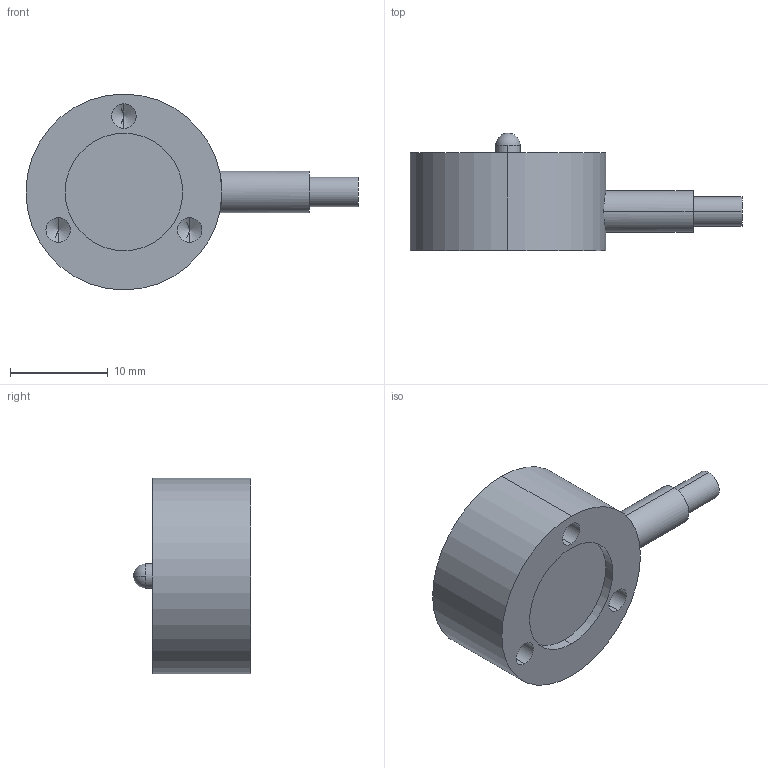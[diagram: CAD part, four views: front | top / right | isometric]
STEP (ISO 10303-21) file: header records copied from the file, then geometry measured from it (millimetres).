
FILE_DESCRIPTION (( 'STEP AP203' ), '1' );
FILE_NAME ('DYHW-116微型膜盒3-200KG.STEP', '2020-06-04T08:28:03', ( '微软用户' ), ( '微软中国' ), 'SwSTEP 2.0', 'SolidWorks 2016', '' );
FILE_SCHEMA (( 'CONFIG_CONTROL_DESIGN' ));
Length unit declared in the file: millimetre
Products named in the file (1): DYHW-116峚倰臚碟3-200KG
Bounding box: 33.9 x 12 x 20 mm (x, y, z)
Volume: 3066.8 mm3; surface area: 1673.8 mm2
Topology: 1 solids, 1 shells, 29 faces, 66 edges, 38 vertices
Faces by surface type: cylinder 16, cone 6, plane 5, sphere 2
Entity records: 899 total; most frequent: CARTESIAN_POINT 182, DIRECTION 150, ORIENTED_EDGE 116, AXIS2_PLACEMENT_3D 64, EDGE_CURVE 58, VERTEX_POINT 38, EDGE_LOOP 36, CIRCLE 34
